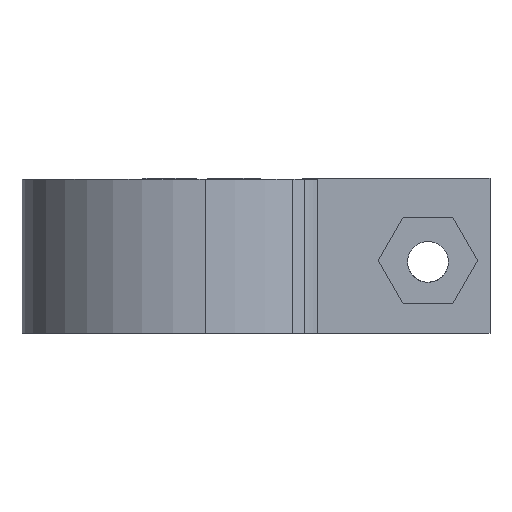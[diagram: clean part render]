
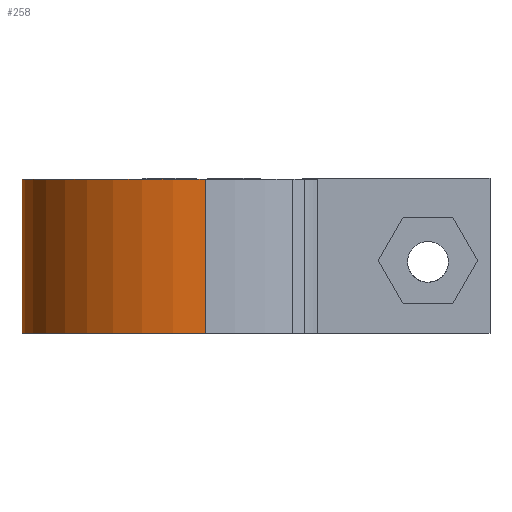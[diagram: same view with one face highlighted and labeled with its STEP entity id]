
A CAD part, left-side view. The second image highlights one B-rep face of the part: STEP entity #258.
In plain terms, the highlighted cylindrical face has radius 17.181 mm (diameter 34.362 mm), a partial arc.
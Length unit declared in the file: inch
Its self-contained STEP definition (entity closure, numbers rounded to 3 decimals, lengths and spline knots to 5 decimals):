
#258=ADVANCED_FACE('',(#520),#521,.T.);
#520=FACE_OUTER_BOUND('',#780,.T.);
#521=CYLINDRICAL_SURFACE('',#781,0.67642);
#780=EDGE_LOOP('',(#1530,#1531,#1532,#1533));
#781=AXIS2_PLACEMENT_3D('',#1534,#1535,#1536);
#1530=ORIENTED_EDGE('',*,*,#1739,.F.);
#1531=ORIENTED_EDGE('',*,*,#1801,.F.);
#1532=ORIENTED_EDGE('',*,*,#1679,.T.);
#1533=ORIENTED_EDGE('',*,*,#1855,.T.);
#1534=CARTESIAN_POINT('',(-0.01776,0.78325,0.39937));
#1535=DIRECTION('',(0.0,0.0,1.0));
#1536=DIRECTION('',(1.0,0.0,0.0));
#1679=EDGE_CURVE('',#2064,#2062,#2065,.T.);
#1739=EDGE_CURVE('',#2154,#2155,#2156,.T.);
#1801=EDGE_CURVE('',#2064,#2154,#2252,.T.);
#1855=EDGE_CURVE('',#2062,#2155,#2319,.T.);
#2062=VERTEX_POINT('',#2577);
#2064=VERTEX_POINT('',#2580);
#2065=LINE('',#2581,#2582);
#2154=VERTEX_POINT('',#2703);
#2155=VERTEX_POINT('',#2704);
#2156=LINE('',#2705,#2706);
#2252=CIRCLE('',#2839,0.67642);
#2319=CIRCLE('',#2928,0.67642);
#2577=CARTESIAN_POINT('',(0.61842,1.01309,0.0014));
#2580=CARTESIAN_POINT('',(0.61842,1.01309,0.57026));
#2581=CARTESIAN_POINT('',(0.61842,1.01309,0.26815));
#2582=VECTOR('',#3114,1.0);
#2703=CARTESIAN_POINT('',(-0.69419,0.78325,0.57026));
#2704=CARTESIAN_POINT('',(-0.69419,0.78325,0.0014));
#2705=CARTESIAN_POINT('',(-0.69419,0.78325,0.39937));
#2706=VECTOR('',#3186,1.0);
#2839=AXIS2_PLACEMENT_3D('',#3266,#3267,#3268);
#2928=AXIS2_PLACEMENT_3D('',#3330,#3331,#3332);
#3114=DIRECTION('',(0.0,0.0,-1.0));
#3186=DIRECTION('',(-0.0,-0.0,-1.0));
#3266=CARTESIAN_POINT('',(-0.01776,0.78325,0.57026));
#3267=DIRECTION('',(0.0,0.0,1.0));
#3268=DIRECTION('',(1.0,0.0,0.0));
#3330=CARTESIAN_POINT('',(-0.01776,0.78325,0.0014));
#3331=DIRECTION('',(0.0,0.0,1.0));
#3332=DIRECTION('',(1.0,0.0,0.0));
